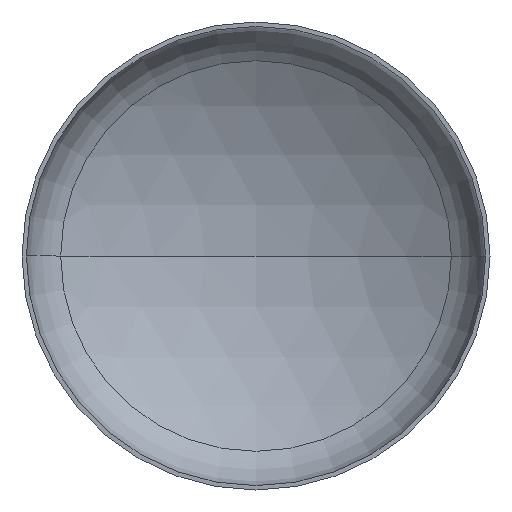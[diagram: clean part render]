
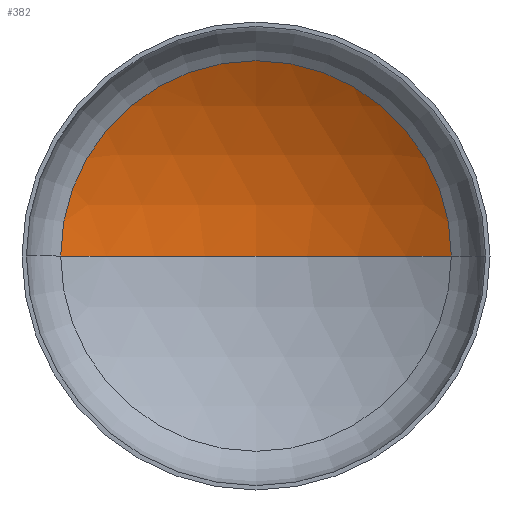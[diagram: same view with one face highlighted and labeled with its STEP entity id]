
A CAD part, front view. The second image highlights one B-rep face of the part: STEP entity #382.
In plain terms, the highlighted spherical face has radius 2560 mm.
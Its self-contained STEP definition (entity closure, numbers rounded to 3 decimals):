
#6 = AXIS2_PLACEMENT_3D ( 'NONE', #183, #186, #220 ) ;
#12 = ORIENTED_EDGE ( 'NONE', *, *, #163, .F. ) ;
#13 = DIRECTION ( 'NONE',  ( 1., 0., 0. ) ) ;
#20 = VERTEX_POINT ( 'NONE', #351 ) ;
#22 = EDGE_LOOP ( 'NONE', ( #12, #125, #120 ) ) ;
#26 = DIRECTION ( 'NONE',  ( 0., -1., 0. ) ) ;
#54 = AXIS2_PLACEMENT_3D ( 'NONE', #227, #228, #269 ) ;
#60 = AXIS2_PLACEMENT_3D ( 'NONE', #352, #202, #210 ) ;
#66 = VERTEX_POINT ( 'NONE', #236 ) ;
#69 = AXIS2_PLACEMENT_3D ( 'NONE', #326, #26, #13 ) ;
#120 = ORIENTED_EDGE ( 'NONE', *, *, #147, .T. ) ;
#125 = ORIENTED_EDGE ( 'NONE', *, *, #161, .T. ) ;
#136 = VERTEX_POINT ( 'NONE', #216 ) ;
#147 = EDGE_CURVE ( 'NONE', #20, #66, #180, .T. ) ;
#161 = EDGE_CURVE ( 'NONE', #136, #20, #249, .T. ) ;
#163 = EDGE_CURVE ( 'NONE', #136, #66, #361, .T. ) ;
#180 = CIRCLE ( 'NONE', #69, 1335.652 ) ;
#183 = CARTESIAN_POINT ( 'NONE',  ( 0., -1675.928, 0. ) ) ;
#186 = DIRECTION ( 'NONE',  ( 0., 0., -1. ) ) ;
#202 = DIRECTION ( 'NONE',  ( 0., 0., -1. ) ) ;
#210 = DIRECTION ( 'NONE',  ( -1., 0., 0. ) ) ;
#216 = CARTESIAN_POINT ( 'NONE',  ( 0., 884.072, 0. ) ) ;
#220 = DIRECTION ( 'NONE',  ( -1., 0., 0. ) ) ;
#227 = CARTESIAN_POINT ( 'NONE',  ( 0., -1675.928, 0. ) ) ;
#228 = DIRECTION ( 'NONE',  ( 0., 0., 1. ) ) ;
#236 = CARTESIAN_POINT ( 'NONE',  ( -1335.652, 508.021, 0. ) ) ;
#249 = CIRCLE ( 'NONE', #60, 2560. ) ;
#261 = SPHERICAL_SURFACE ( 'NONE', #6, 2560. ) ;
#269 = DIRECTION ( 'NONE',  ( 1., 0., 0. ) ) ;
#326 = CARTESIAN_POINT ( 'NONE',  ( 0., 508.021, 0. ) ) ;
#351 = CARTESIAN_POINT ( 'NONE',  ( 1335.652, 508.021, 0. ) ) ;
#352 = CARTESIAN_POINT ( 'NONE',  ( 0., -1675.928, 0. ) ) ;
#361 = CIRCLE ( 'NONE', #54, 2560. ) ;
#382 = ADVANCED_FACE ( 'NONE', ( #383 ), #261, .F. ) ;
#383 = FACE_OUTER_BOUND ( 'NONE', #22, .T. ) ;
